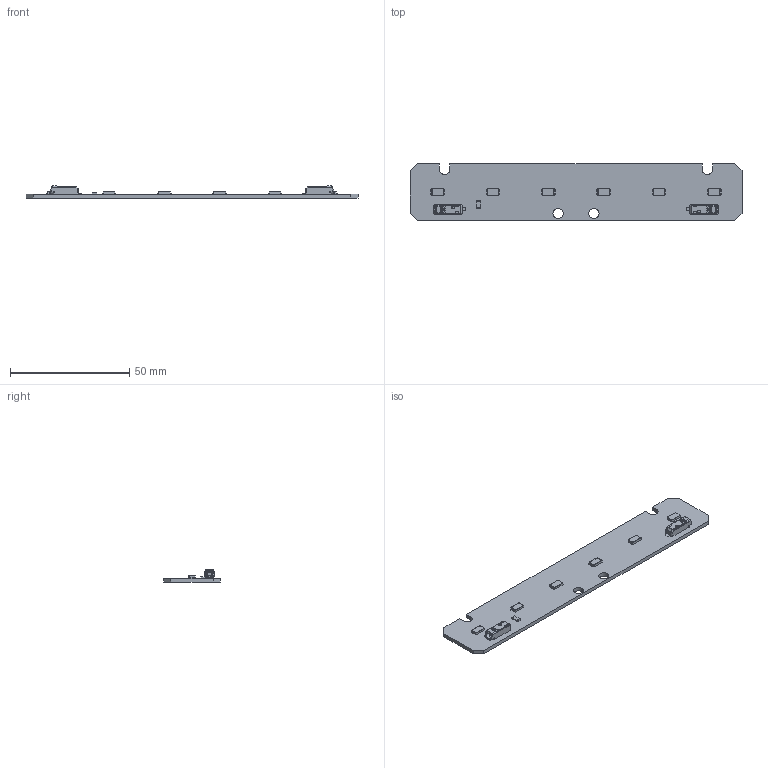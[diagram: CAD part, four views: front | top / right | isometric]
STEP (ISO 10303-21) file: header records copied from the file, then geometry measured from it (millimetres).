
FILE_DESCRIPTION((''),'2;1');
FILE_NAME('16206869_LLE-G4_24X140_325LM','2016-07-01T',('bernhard.fink'),(''),'PRO/ENGINEER BY PARAMETRIC TECHNOLOGY CORPORATION, 2015200','PRO/ENGINEER BY PARAMETRIC TECHNOLOGY CORPORATION, 2015200','');
FILE_SCHEMA(('AUTOMOTIVE_DESIGN { 1 0 10303 214 1 1 1 1 }'));
Length unit declared in the file: millimetre
Products named in the file (1): 16206869_LLE-G4_24X140_325LM
Bounding box: 139 x 23.6 x 5.1 mm (x, y, z)
Volume: 5604.3 mm3; surface area: 7494.4 mm2
Topology: 1 solids, 1 shells, 776 faces, 2056 edges, 1270 vertices
Faces by surface type: plane 354, cylinder 224, bspline 116, cone 34, revolution 24, torus 12, sphere 12
Entity records: 39383 total; most frequent: CARTESIAN_POINT 9742, ORIENTED_EDGE 4040, DIRECTION 3272, PRESENTATION_STYLE_ASSIGNMENT 2773, STYLED_ITEM 2045, CURVE_STYLE 2044, EDGE_CURVE 2020, VERTEX_POINT 1270
